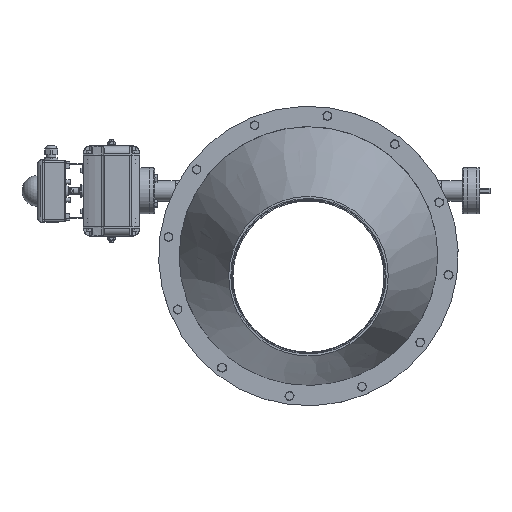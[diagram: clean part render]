
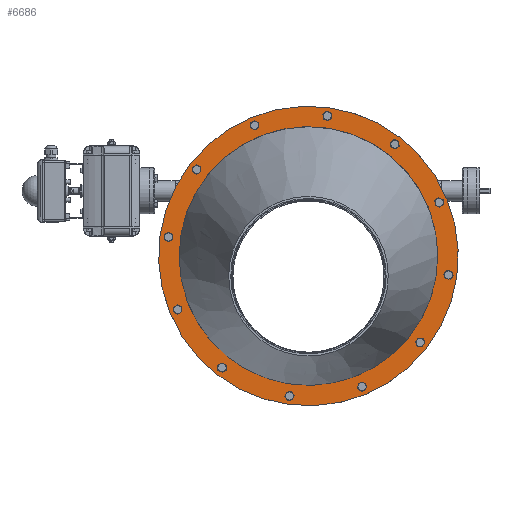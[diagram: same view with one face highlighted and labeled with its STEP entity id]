
A CAD part, top view. The second image highlights one B-rep face of the part: STEP entity #6686.
In plain terms, the highlighted planar face has unit normal (0, 0, 1) as drawn and (0, 0, -1) by its records, which use the part's own axes.
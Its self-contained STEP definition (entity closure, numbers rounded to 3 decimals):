
#5973=CARTESIAN_POINT('',(232.855,-137.723,0.0));
#5974=VERTEX_POINT('',#5973);
#5975=CARTESIAN_POINT('',(238.605,-137.723,0.0));
#5976=DIRECTION('',(0.0,0.0,1.0));
#5977=DIRECTION('',(1.0,0.0,0.0));
#5978=AXIS2_PLACEMENT_3D('',#5975,#5976,#5977);
#5979=CIRCLE('',#5978,5.75);
#5980=EDGE_CURVE('',#5974,#5974,#5979,.T.);
#6022=CARTESIAN_POINT('',(269.75,0.031,0.0));
#6023=VERTEX_POINT('',#6022);
#6024=CARTESIAN_POINT('',(275.5,0.031,0.0));
#6025=DIRECTION('',(0.0,0.0,1.0));
#6026=DIRECTION('',(1.0,0.0,0.0));
#6027=AXIS2_PLACEMENT_3D('',#6024,#6025,#6026);
#6028=CIRCLE('',#6027,5.75);
#6029=EDGE_CURVE('',#6023,#6023,#6028,.T.);
#6071=CARTESIAN_POINT('',(232.825,137.777,0.0));
#6072=VERTEX_POINT('',#6071);
#6073=CARTESIAN_POINT('',(238.575,137.777,0.0));
#6074=DIRECTION('',(0.0,0.0,1.0));
#6075=DIRECTION('',(1.0,0.0,0.0));
#6076=AXIS2_PLACEMENT_3D('',#6073,#6074,#6075);
#6077=CIRCLE('',#6076,5.75);
#6078=EDGE_CURVE('',#6072,#6072,#6077,.T.);
#6120=CARTESIAN_POINT('',(131.973,238.605,0.0));
#6121=VERTEX_POINT('',#6120);
#6122=CARTESIAN_POINT('',(137.723,238.605,0.0));
#6123=DIRECTION('',(0.0,0.0,1.0));
#6124=DIRECTION('',(1.0,0.0,0.0));
#6125=AXIS2_PLACEMENT_3D('',#6122,#6123,#6124);
#6126=CIRCLE('',#6125,5.75);
#6127=EDGE_CURVE('',#6121,#6121,#6126,.T.);
#6169=CARTESIAN_POINT('',(-244.325,-137.777,0.0));
#6170=VERTEX_POINT('',#6169);
#6171=CARTESIAN_POINT('',(-238.575,-137.777,0.0));
#6172=DIRECTION('',(0.0,0.0,1.0));
#6173=DIRECTION('',(1.0,0.0,0.0));
#6174=AXIS2_PLACEMENT_3D('',#6171,#6172,#6173);
#6175=CIRCLE('',#6174,5.75);
#6176=EDGE_CURVE('',#6170,#6170,#6175,.T.);
#6218=CARTESIAN_POINT('',(-143.473,-238.605,0.0));
#6219=VERTEX_POINT('',#6218);
#6220=CARTESIAN_POINT('',(-137.723,-238.605,0.0));
#6221=DIRECTION('',(0.0,0.0,1.0));
#6222=DIRECTION('',(1.0,0.0,0.0));
#6223=AXIS2_PLACEMENT_3D('',#6220,#6221,#6222);
#6224=CIRCLE('',#6223,5.75);
#6225=EDGE_CURVE('',#6219,#6219,#6224,.T.);
#6267=CARTESIAN_POINT('',(-5.719,-275.5,0.0));
#6268=VERTEX_POINT('',#6267);
#6269=CARTESIAN_POINT('',(0.031,-275.5,0.0));
#6270=DIRECTION('',(0.0,0.0,1.0));
#6271=DIRECTION('',(1.0,0.0,0.0));
#6272=AXIS2_PLACEMENT_3D('',#6269,#6270,#6271);
#6273=CIRCLE('',#6272,5.75);
#6274=EDGE_CURVE('',#6268,#6268,#6273,.T.);
#6316=CARTESIAN_POINT('',(132.027,-238.575,0.0));
#6317=VERTEX_POINT('',#6316);
#6318=CARTESIAN_POINT('',(137.777,-238.575,0.0));
#6319=DIRECTION('',(0.0,0.0,1.0));
#6320=DIRECTION('',(1.0,0.0,0.0));
#6321=AXIS2_PLACEMENT_3D('',#6318,#6319,#6320);
#6322=CIRCLE('',#6321,5.75);
#6323=EDGE_CURVE('',#6317,#6317,#6322,.T.);
#6365=CARTESIAN_POINT('',(-281.25,-0.031,0.0));
#6366=VERTEX_POINT('',#6365);
#6367=CARTESIAN_POINT('',(-275.5,-0.031,0.0));
#6368=DIRECTION('',(0.0,0.0,1.0));
#6369=DIRECTION('',(1.0,0.0,0.0));
#6370=AXIS2_PLACEMENT_3D('',#6367,#6368,#6369);
#6371=CIRCLE('',#6370,5.75);
#6372=EDGE_CURVE('',#6366,#6366,#6371,.T.);
#6414=CARTESIAN_POINT('',(-244.355,137.723,0.0));
#6415=VERTEX_POINT('',#6414);
#6416=CARTESIAN_POINT('',(-238.605,137.723,0.0));
#6417=DIRECTION('',(0.0,0.0,1.0));
#6418=DIRECTION('',(1.0,0.0,0.0));
#6419=AXIS2_PLACEMENT_3D('',#6416,#6417,#6418);
#6420=CIRCLE('',#6419,5.75);
#6421=EDGE_CURVE('',#6415,#6415,#6420,.T.);
#6463=CARTESIAN_POINT('',(-143.527,238.575,0.0));
#6464=VERTEX_POINT('',#6463);
#6465=CARTESIAN_POINT('',(-137.777,238.575,0.0));
#6466=DIRECTION('',(0.0,0.0,1.0));
#6467=DIRECTION('',(1.0,0.0,0.0));
#6468=AXIS2_PLACEMENT_3D('',#6465,#6466,#6467);
#6469=CIRCLE('',#6468,5.75);
#6470=EDGE_CURVE('',#6464,#6464,#6469,.T.);
#6512=CARTESIAN_POINT('',(-5.781,275.5,0.0));
#6513=VERTEX_POINT('',#6512);
#6514=CARTESIAN_POINT('',(-0.031,275.5,0.0));
#6515=DIRECTION('',(0.0,0.0,1.0));
#6516=DIRECTION('',(1.0,0.0,0.0));
#6517=AXIS2_PLACEMENT_3D('',#6514,#6515,#6516);
#6518=CIRCLE('',#6517,5.75);
#6519=EDGE_CURVE('',#6513,#6513,#6518,.T.);
#6551=CARTESIAN_POINT('',(252.,0.,0.0));
#6552=VERTEX_POINT('',#6551);
#6553=CARTESIAN_POINT('',(0.0,0.0,0.0));
#6554=DIRECTION('',(0.0,0.0,1.0));
#6555=DIRECTION('',(-1.0,0.0,0.0));
#6556=AXIS2_PLACEMENT_3D('',#6553,#6554,#6555);
#6557=CIRCLE('',#6556,252.);
#6558=EDGE_CURVE('',#6552,#6552,#6557,.T.);
#6579=CARTESIAN_POINT('',(292.0,0.,0.0));
#6580=VERTEX_POINT('',#6579);
#6581=CARTESIAN_POINT('',(0.0,0.0,0.0));
#6582=DIRECTION('',(0.0,0.0,-1.0));
#6583=DIRECTION('',(-1.0,0.0,0.0));
#6584=AXIS2_PLACEMENT_3D('',#6581,#6582,#6583);
#6585=CIRCLE('',#6584,292.0);
#6586=EDGE_CURVE('',#6580,#6580,#6585,.T.);
#6639=CARTESIAN_POINT('',(0.0,0.0,0.0));
#6640=DIRECTION('',(0.0,0.0,-1.0));
#6641=DIRECTION('',(-1.0,0.0,0.0));
#6642=AXIS2_PLACEMENT_3D('',#6639,#6640,#6641);
#6643=PLANE('',#6642);
#6644=ORIENTED_EDGE('',*,*,#6586,.T.);
#6645=EDGE_LOOP('',(#6644));
#6646=FACE_OUTER_BOUND('',#6645,.T.);
#6647=ORIENTED_EDGE('',*,*,#5980,.T.);
#6648=EDGE_LOOP('',(#6647));
#6649=FACE_BOUND('',#6648,.T.);
#6650=ORIENTED_EDGE('',*,*,#6029,.T.);
#6651=EDGE_LOOP('',(#6650));
#6652=FACE_BOUND('',#6651,.T.);
#6653=ORIENTED_EDGE('',*,*,#6078,.T.);
#6654=EDGE_LOOP('',(#6653));
#6655=FACE_BOUND('',#6654,.T.);
#6656=ORIENTED_EDGE('',*,*,#6127,.T.);
#6657=EDGE_LOOP('',(#6656));
#6658=FACE_BOUND('',#6657,.T.);
#6659=ORIENTED_EDGE('',*,*,#6176,.T.);
#6660=EDGE_LOOP('',(#6659));
#6661=FACE_BOUND('',#6660,.T.);
#6662=ORIENTED_EDGE('',*,*,#6225,.T.);
#6663=EDGE_LOOP('',(#6662));
#6664=FACE_BOUND('',#6663,.T.);
#6665=ORIENTED_EDGE('',*,*,#6274,.T.);
#6666=EDGE_LOOP('',(#6665));
#6667=FACE_BOUND('',#6666,.T.);
#6668=ORIENTED_EDGE('',*,*,#6323,.T.);
#6669=EDGE_LOOP('',(#6668));
#6670=FACE_BOUND('',#6669,.T.);
#6671=ORIENTED_EDGE('',*,*,#6372,.T.);
#6672=EDGE_LOOP('',(#6671));
#6673=FACE_BOUND('',#6672,.T.);
#6674=ORIENTED_EDGE('',*,*,#6421,.T.);
#6675=EDGE_LOOP('',(#6674));
#6676=FACE_BOUND('',#6675,.T.);
#6677=ORIENTED_EDGE('',*,*,#6470,.T.);
#6678=EDGE_LOOP('',(#6677));
#6679=FACE_BOUND('',#6678,.T.);
#6680=ORIENTED_EDGE('',*,*,#6519,.T.);
#6681=EDGE_LOOP('',(#6680));
#6682=FACE_BOUND('',#6681,.T.);
#6683=ORIENTED_EDGE('',*,*,#6558,.T.);
#6684=EDGE_LOOP('',(#6683));
#6685=FACE_BOUND('',#6684,.T.);
#6686=ADVANCED_FACE('',(#6646,#6649,#6652,#6655,#6658,#6661,#6664,#6667,#6670,#6673,#6676,#6679,#6682,#6685),#6643,.T.);
